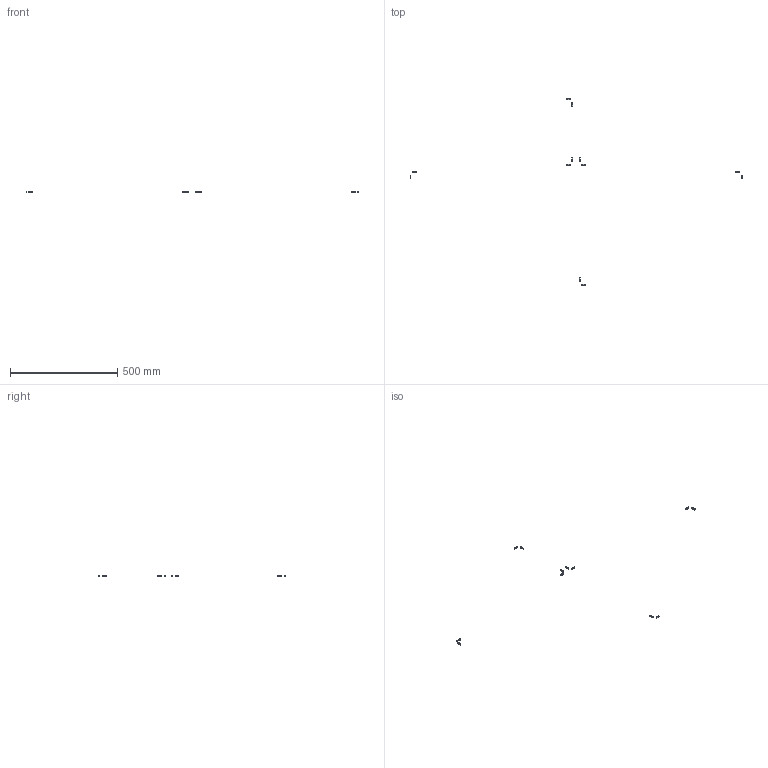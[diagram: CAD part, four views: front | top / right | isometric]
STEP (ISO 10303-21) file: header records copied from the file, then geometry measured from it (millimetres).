
FILE_DESCRIPTION(/* description */ (''),/* implementation_level */ '2;1');
FILE_NAME(/* name */ '1.frame-bottom#1.5#HNTPZ5-5',/* time_stamp */ '2014-12-01T20:11:22+01:00',/* author */ (''),/* organization */ (''),/* preprocessor_version */ 'ST-DEVELOPER v14',/* originating_system */ '',/* authorisation */ '');
FILE_SCHEMA (('AUTOMOTIVE_DESIGN'));
Length unit declared in the file: millimetre
Products named in the file (2): Document; nut tslot, post, M5
Assembly tree (4 placements, depth 2):
  Document
    nut tslot, post, M5  x4
Bounding box: 1550.2 x 870.4 x 8.3 mm (x, y, z)
Volume: 3780.1 mm3; surface area: 5034.1 mm2
Topology: 12 solids, 12 shells, 156 faces, 432 edges, 288 vertices
Faces by surface type: plane 132, bspline 24
Entity records: 8641 total; most frequent: CARTESIAN_POINT 4111, B_SPLINE_CURVE_WITH_KNOTS 900, ORIENTED_EDGE 648, PCURVE 648, DEFINITIONAL_REPRESENTATION 648, SURFACE_CURVE 324, EDGE_CURVE 324, VERTEX_POINT 216
